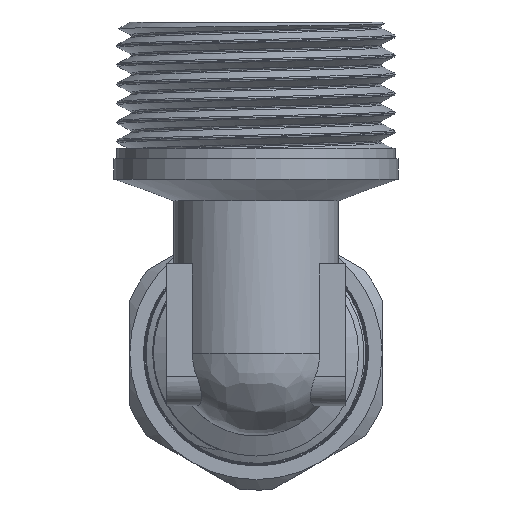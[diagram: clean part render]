
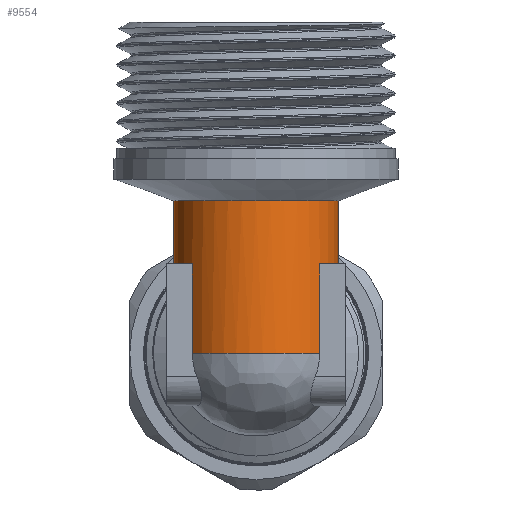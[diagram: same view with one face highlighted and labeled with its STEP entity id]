
A CAD part, front view. The second image highlights one B-rep face of the part: STEP entity #9554.
In plain terms, the highlighted cylindrical face has radius 7.85 mm (diameter 15.7 mm), a full revolution.
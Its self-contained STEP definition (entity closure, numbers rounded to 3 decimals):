
#951=ELLIPSE('',#10236,11.102,7.85);
#1210=CYLINDRICAL_SURFACE('',#10234,7.85);
#1312=FACE_OUTER_BOUND('',#1872,.T.);
#1872=EDGE_LOOP('',(#6545,#6546,#6547,#6548,#6549,#6550,#6551,#6552,#6553,
#6554,#6555,#6556,#6557,#6558));
#2477=LINE('',#12647,#3084);
#2478=LINE('',#12651,#3085);
#2479=LINE('',#12655,#3086);
#2480=LINE('',#12659,#3087);
#2481=LINE('',#12663,#3088);
#3084=VECTOR('',#10879,7.85);
#3085=VECTOR('',#10882,10.);
#3086=VECTOR('',#10885,10.);
#3087=VECTOR('',#10888,10.);
#3088=VECTOR('',#10891,10.);
#3706=CIRCLE('',#10224,7.85);
#3707=CIRCLE('',#10225,7.85);
#3708=CIRCLE('',#10226,7.85);
#3713=CIRCLE('',#10235,7.85);
#3714=CIRCLE('',#10237,7.85);
#3715=CIRCLE('',#10238,7.85);
#3716=CIRCLE('',#10239,7.85);
#3965=VERTEX_POINT('',#12625);
#3966=VERTEX_POINT('',#12627);
#3967=VERTEX_POINT('',#12629);
#3972=VERTEX_POINT('',#12646);
#3973=VERTEX_POINT('',#12648);
#3974=VERTEX_POINT('',#12650);
#3975=VERTEX_POINT('',#12652);
#3976=VERTEX_POINT('',#12654);
#3977=VERTEX_POINT('',#12656);
#3978=VERTEX_POINT('',#12658);
#3979=VERTEX_POINT('',#12660);
#3980=VERTEX_POINT('',#12662);
#4992=EDGE_CURVE('',#3966,#3965,#3706,.T.);
#4993=EDGE_CURVE('',#3967,#3966,#3707,.T.);
#4994=EDGE_CURVE('',#3965,#3967,#3708,.T.);
#5001=EDGE_CURVE('',#3967,#3972,#2477,.T.);
#5002=EDGE_CURVE('',#3972,#3973,#3713,.T.);
#5003=EDGE_CURVE('',#3973,#3974,#2478,.T.);
#5004=EDGE_CURVE('',#3975,#3974,#951,.T.);
#5005=EDGE_CURVE('',#3975,#3976,#2479,.T.);
#5006=EDGE_CURVE('',#3976,#3977,#3714,.T.);
#5007=EDGE_CURVE('',#3977,#3978,#2480,.T.);
#5008=EDGE_CURVE('',#3978,#3979,#3715,.T.);
#5009=EDGE_CURVE('',#3979,#3980,#2481,.T.);
#5010=EDGE_CURVE('',#3980,#3972,#3716,.T.);
#6545=ORIENTED_EDGE('',*,*,#4992,.T.);
#6546=ORIENTED_EDGE('',*,*,#4994,.T.);
#6547=ORIENTED_EDGE('',*,*,#5001,.T.);
#6548=ORIENTED_EDGE('',*,*,#5002,.T.);
#6549=ORIENTED_EDGE('',*,*,#5003,.T.);
#6550=ORIENTED_EDGE('',*,*,#5004,.F.);
#6551=ORIENTED_EDGE('',*,*,#5005,.T.);
#6552=ORIENTED_EDGE('',*,*,#5006,.T.);
#6553=ORIENTED_EDGE('',*,*,#5007,.T.);
#6554=ORIENTED_EDGE('',*,*,#5008,.T.);
#6555=ORIENTED_EDGE('',*,*,#5009,.T.);
#6556=ORIENTED_EDGE('',*,*,#5010,.T.);
#6557=ORIENTED_EDGE('',*,*,#5001,.F.);
#6558=ORIENTED_EDGE('',*,*,#4993,.T.);
#9554=ADVANCED_FACE('',(#1312),#1210,.T.);
#10224=AXIS2_PLACEMENT_3D('',#12628,#10855,#10856);
#10225=AXIS2_PLACEMENT_3D('',#12630,#10857,#10858);
#10226=AXIS2_PLACEMENT_3D('',#12631,#10859,#10860);
#10234=AXIS2_PLACEMENT_3D('',#12645,#10877,#10878);
#10235=AXIS2_PLACEMENT_3D('',#12649,#10880,#10881);
#10236=AXIS2_PLACEMENT_3D('',#12653,#10883,#10884);
#10237=AXIS2_PLACEMENT_3D('',#12657,#10886,#10887);
#10238=AXIS2_PLACEMENT_3D('',#12661,#10889,#10890);
#10239=AXIS2_PLACEMENT_3D('',#12664,#10892,#10893);
#10855=DIRECTION('center_axis',(0.,0.,-1.));
#10856=DIRECTION('ref_axis',(-1.,0.,0.));
#10857=DIRECTION('center_axis',(0.,0.,-1.));
#10858=DIRECTION('ref_axis',(-1.,0.,0.));
#10859=DIRECTION('center_axis',(0.,0.,-1.));
#10860=DIRECTION('ref_axis',(-1.,0.,0.));
#10877=DIRECTION('center_axis',(0.,0.,1.));
#10878=DIRECTION('ref_axis',(-1.,0.,0.));
#10879=DIRECTION('',(0.,0.,-1.));
#10880=DIRECTION('center_axis',(0.,0.,1.));
#10881=DIRECTION('ref_axis',(-1.,0.,0.));
#10882=DIRECTION('',(0.,0.,-1.));
#10883=DIRECTION('center_axis',(0.,0.707,-0.707));
#10884=DIRECTION('ref_axis',(0.,-0.707,-0.707));
#10885=DIRECTION('',(0.,0.,1.));
#10886=DIRECTION('center_axis',(0.,0.,1.));
#10887=DIRECTION('ref_axis',(-1.,0.,0.));
#10888=DIRECTION('',(0.,0.,-1.));
#10889=DIRECTION('center_axis',(0.,0.,1.));
#10890=DIRECTION('ref_axis',(-1.,0.,0.));
#10891=DIRECTION('',(0.,0.,1.));
#10892=DIRECTION('center_axis',(0.,0.,1.));
#10893=DIRECTION('ref_axis',(-1.,0.,0.));
#12625=CARTESIAN_POINT('',(0.,-20.65,14.5));
#12627=CARTESIAN_POINT('',(0.,-36.35,14.5));
#12628=CARTESIAN_POINT('Origin',(0.,-28.5,14.5));
#12629=CARTESIAN_POINT('',(7.85,-28.5,14.5));
#12630=CARTESIAN_POINT('Origin',(0.,-28.5,14.5));
#12631=CARTESIAN_POINT('Origin',(0.,-28.5,14.5));
#12645=CARTESIAN_POINT('Origin',(0.,-28.5,0.));
#12646=CARTESIAN_POINT('',(7.85,-28.5,8.5));
#12647=CARTESIAN_POINT('',(7.85,-28.5,0.));
#12648=CARTESIAN_POINT('',(6.052,-23.5,8.5));
#12649=CARTESIAN_POINT('Origin',(0.,-28.5,8.5));
#12650=CARTESIAN_POINT('',(6.052,-23.5,5.));
#12651=CARTESIAN_POINT('',(6.052,-23.5,0.));
#12652=CARTESIAN_POINT('',(-6.052,-23.5,5.));
#12653=CARTESIAN_POINT('Origin',(0.,-28.5,0.));
#12654=CARTESIAN_POINT('',(-6.052,-23.5,8.5));
#12655=CARTESIAN_POINT('',(-6.052,-23.5,0.));
#12656=CARTESIAN_POINT('',(-6.052,-33.5,8.5));
#12657=CARTESIAN_POINT('Origin',(0.,-28.5,8.5));
#12658=CARTESIAN_POINT('',(-6.052,-33.5,0.));
#12659=CARTESIAN_POINT('',(-6.052,-33.5,0.));
#12660=CARTESIAN_POINT('',(6.052,-33.5,0.));
#12661=CARTESIAN_POINT('Origin',(0.,-28.5,0.));
#12662=CARTESIAN_POINT('',(6.052,-33.5,8.5));
#12663=CARTESIAN_POINT('',(6.052,-33.5,0.));
#12664=CARTESIAN_POINT('Origin',(0.,-28.5,8.5));
